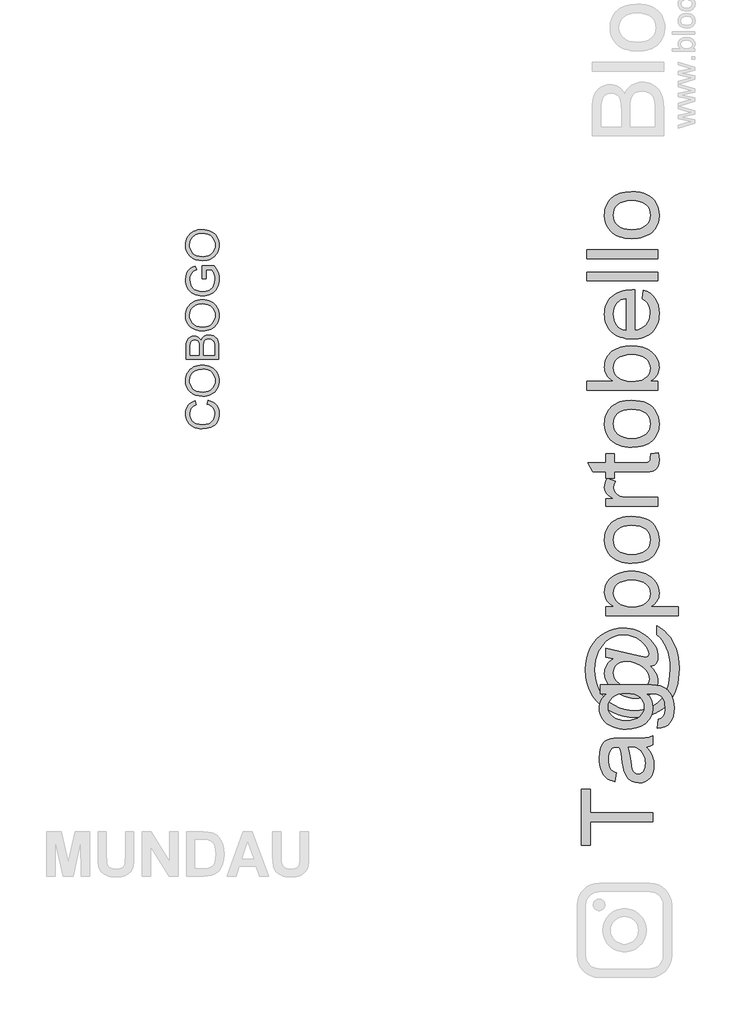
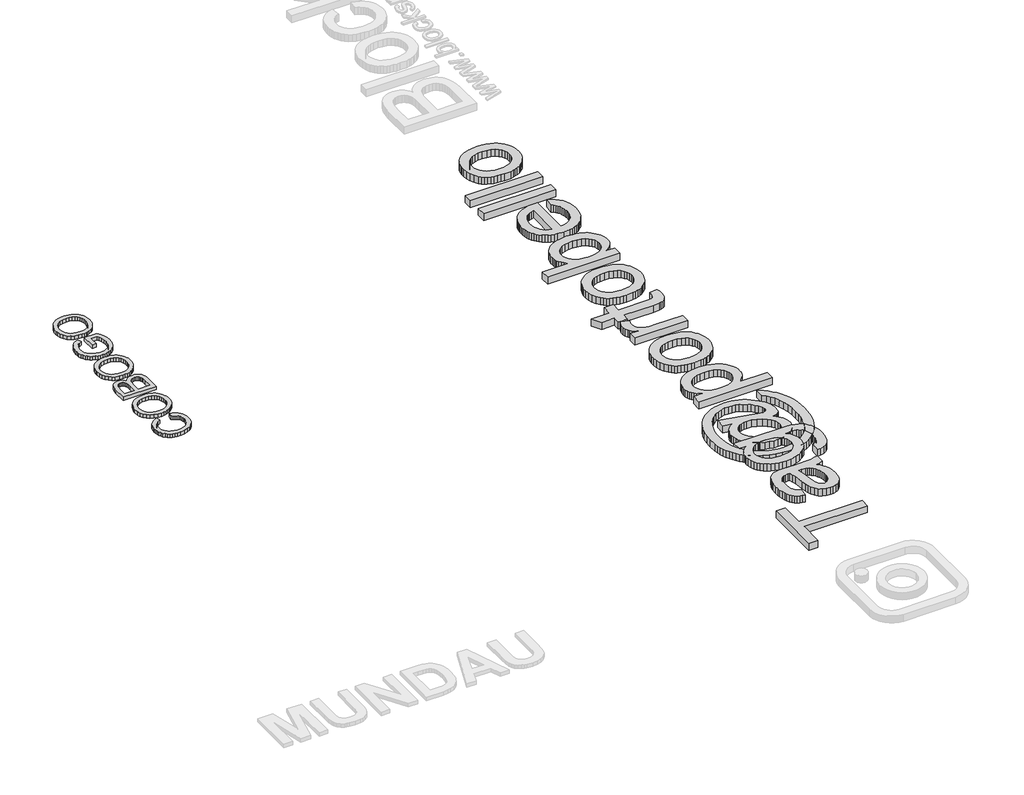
# One storey, part 3 of 4: 3 proxies.
"""IFC4 building model written with IfcOpenShell, lengths in millimetres."""

from ifc_helpers import new_model, si_unit, origin, origin_with_axes, place, context, project, spatial, polyline, outline, extrude, element, save

model = new_model("IFC4")

# Units and contexts
model_context = context("Model", 3, world=origin())
ifc_project = project(units=[si_unit("LENGTHUNIT", "METRE", prefix="MILLI")], contexts=[model_context])

# Site, building, storey
site = spatial("IfcSite", under=ifc_project)
building = spatial("IfcBuilding", under=site)
storey = spatial("IfcBuildingStorey", under=building, Name="PORTOBELLO - SHOWROOM", Elevation=0.0)

# Proxies
placement = place(None, origin())
element("IfcBuildingElementProxy", 1, Name="450mm Arial", ObjectType="450mm Arial", at=placement, inside=storey, context=model_context, shape_type="SweptSolid", body=[
    extrude(outline(polyline([(74081.6979895, 21402.8080917), (74096.1888613, 21459.0151096), (74131.1432867, 21447.893091), (74161.6859551, 21433.0797425), (74187.8168667, 21414.5750638), (74209.5360214, 21392.3790552), (74226.610138, 21366.9925847), (74238.8059357, 21338.9165207), (74246.1234143, 21308.1508629), (74248.5625738, 21274.6956116), (74246.7169088, 21240.4204459), (74241.1799137, 21209.5004109), (74231.9515887, 21181.9355069), (74219.0319336, 21157.7257336), (74202.6130623, 21136.5383226), (74182.8870886, 21118.0405052), (74159.8540125, 21102.2322814), (74133.5138341, 21089.1136513), (74075.4680125, 21071.4529013), (74013.3054659, 21065.5659846), (73979.404236, 21067.2298276), (73947.73976, 21072.2213566), (73918.3120379, 21080.5405716), (73891.1210696, 21092.1874726), (73866.6162644, 21106.9013336), (73845.2470314, 21124.4214288), (73827.0133705, 21144.7477582), (73811.9152818, 21167.8803218), (73800.076267, 21193.0335112), (73791.6198278, 21219.4217181), (73786.5459643, 21247.0449424), (73784.8546765, 21275.9031842), (73787.0434019, 21308.0513754), (73793.6095782, 21337.5305566), (73804.5532054, 21364.3407278), (73819.8742833, 21388.4818889), (73839.1680009, 21409.55609), (73862.0295467, 21427.165381), (73888.4589208, 21441.3097617), (73918.4561232, 21451.9892323), (73931.8492017, 21395.7822145), (73890.8603437, 21376.2963831), (73875.1927747, 21363.8775962), (73862.7431124, 21349.6748952), (73853.257492, 21333.6059455), (73846.4820489, 21315.5884127), (73841.0616944, 21273.7075976), (73842.564299, 21248.4926573), (73847.0721128, 21225.4321365), (73854.5851358, 21204.526035), (73865.103368, 21185.7743529), (73878.1533861, 21169.4138018), (73893.2617666, 21155.6810936), (73910.4285096, 21144.576228), (73929.6536151, 21136.0992053), (73970.7934197, 21125.3545532), (74013.1956865, 21121.7730025), (74065.1213105, 21126.0132292), (74110.0210571, 21138.7339092), (74129.407401, 21148.3944904), (74146.1796245, 21160.4153272), (74160.3377277, 21174.7964197), (74171.8817106, 21191.5377678), (74187.2370946, 21228.8490182), (74192.3555559, 21269.0968657), (74190.612809, 21293.5330588), (74185.3845684, 21316.0138076), (74176.6708339, 21336.539112), (74164.4716057, 21355.1089721), (74148.8417733, 21371.2842705), (74129.8362265, 21384.6258899), (74107.4549653, 21395.1338303), (74081.6979895, 21402.8080917)])), origin_with_axes(), (0.0, 0.0, 1.0), 50.0),
    extrude(outline(polyline([(74022.6367091, 21515.2221274), (73969.8946014, 21518.9683471), (73923.2040793, 21530.2070062), (73882.565143, 21548.9381047), (73847.9777923, 21575.1616426), (73820.3614291, 21607.3064031), (73800.6354555, 21643.8011697), (73788.7998712, 21684.6459424), (73784.8546765, 21729.840721), (73786.7072027, 21760.0917881), (73792.2647814, 21788.819667), (73801.5274125, 21816.0243576), (73814.4950961, 21841.70586), (73830.7767432, 21865.1437474), (73849.9812651, 21885.6175927), (73872.1086616, 21903.1273961), (73897.1589329, 21917.6731576), (73924.5625986, 21929.1039305), (73953.7501784, 21937.2687683), (73984.7216724, 21942.167671), (74017.4770805, 21943.8006386), (74050.6647447, 21942.0819059), (74082.0547724, 21936.9257079), (74111.6471635, 21928.3320446), (74139.441918, 21916.300916), (74164.7048868, 21901.1170621), (74186.7019204, 21883.0652233), (74205.4330188, 21862.1453994), (74220.8981822, 21838.3575904), (74233.0013535, 21812.6383514), (74241.6464759, 21785.9242371), (74246.8335493, 21758.2152476), (74248.5625738, 21729.511383), (74246.6517273, 21698.7320029), (74240.9191878, 21669.6267575), (74231.3649554, 21642.195647), (74217.9890299, 21616.4386713), (74201.3094327, 21593.0282288), (74181.8441849, 21572.6367179), (74159.5932866, 21555.2641387), (74134.5567378, 21540.9104911), (74107.7397054, 21529.671832), (74080.1473565, 21521.6442183), (74051.779691, 21516.8276502), (74022.6367091, 21515.2221274)]), holes=[polyline([(74023.1856057, 21571.4291453), (74060.4488276, 21574.2388101), (74093.5267125, 21582.6678044), (74122.4192604, 21596.7161282), (74147.1264713, 21616.3837816), (74166.9141958, 21640.2916617), (74181.0482848, 21667.0606656), (74189.5287381, 21696.6907934), (74192.3555559, 21729.182045), (74189.5012933, 21762.2290545), (74180.9385054, 21792.2091038), (74166.6671923, 21819.1221931), (74146.6873539, 21842.9683223), (74121.4586913, 21862.4918904), (74091.4409052, 21876.4372961), (74056.6339959, 21884.8045396), (74017.0379631, 21887.5936207), (73967.280481, 21882.8182198), (73924.2744278, 21868.492017), (73889.1038744, 21844.9855176), (73862.8528917, 21812.6692268), (73846.5094937, 21773.6838416), (73841.0616944, 21730.170059), (73843.6861065, 21698.8074761), (73851.559343, 21669.709092), (73864.6814037, 21642.8749066), (73883.0522888, 21618.3049199), (73907.557094, 21597.7967685), (73939.0809152, 21583.1480889), (73977.6237524, 21574.3588812), (74023.1856057, 21571.4291453)])]), origin_with_axes(), (0.0, 0.0, 1.0), 50.0),
    extrude(outline(polyline([(74241.5366966, 22021.0852881), (73791.8805537, 22021.0852881), (73791.8805537, 22192.6703836), (73795.1876561, 22239.8617738), (73805.1089632, 22276.7064621), (73821.8914786, 22304.9471952), (73845.7822056, 22326.32672), (73873.8857146, 22339.7884106), (73903.3065755, 22344.2756408), (73930.3809032, 22340.5019762), (73955.8359857, 22329.1809826), (73978.1074676, 22310.2303255), (73995.6309935, 22283.5676703), (74012.2625622, 22315.4173989), (74037.5666982, 22338.9513432), (74069.8692665, 22353.4833822), (74107.4961325, 22358.3273952), (74138.8518541, 22355.0202928), (74167.9296546, 22345.0989857), (74192.6574491, 22330.2924984), (74210.9631527, 22312.3298552), (74224.219007, 22290.3328216), (74233.7972537, 22263.4231629), (74239.6018358, 22230.7226445), (74241.5366966, 22191.3530316), (74241.5366966, 22021.0852881)]), holes=[polyline([(73974.5533618, 22077.292306), (73974.5533618, 22179.9359811), (73973.3457891, 22215.8338226), (73969.7230712, 22239.8754963), (73961.3935644, 22260.857071), (73948.9198878, 22275.9380067), (73932.4941553, 22285.0359689), (73912.3084807, 22288.0686229), (73892.7128699, 22285.2418051), (73875.6421839, 22276.7613517), (73862.3177175, 22263.0114904), (73853.9607658, 22244.3764489), (73849.5558702, 22215.7789329), (73848.0875716, 22172.1416486), (73848.0875716, 22077.292306), (73974.5533618, 22077.292306)]), polyline([(74185.3296787, 22077.292306), (74185.3296787, 22192.5606043), (74183.1340921, 22234.2767503), (74178.2626342, 22253.63908), (74170.8936966, 22269.5708055), (74160.3411583, 22282.5247666), (74145.9188986, 22292.9538032), (74128.271871, 22299.8287338), (74108.0450292, 22302.1203774), (74084.5522522, 22299.4307837), (74064.3528551, 22291.3620029), (74048.5583538, 22277.2690811), (74038.2802638, 22256.507065), (74032.6403507, 22227.0999265), (74030.7603796, 22187.0716377), (74030.7603796, 22077.292306), (74185.3296787, 22077.292306)])]), origin_with_axes(), (0.0, 0.0, 1.0), 50.0),
    extrude(outline(polyline([(74022.6367091, 22414.5344131), (73969.8946014, 22418.2806328), (73923.2040793, 22429.5192918), (73882.565143, 22448.2503903), (73847.9777923, 22474.4739282), (73820.3614291, 22506.6186888), (73800.6354555, 22543.1134554), (73788.7998712, 22583.958228), (73784.8546765, 22629.1530066), (73786.7072027, 22659.4040737), (73792.2647814, 22688.1319526), (73801.5274125, 22715.3366432), (73814.4950961, 22741.0181457), (73830.7767432, 22764.456033), (73849.9812651, 22784.9298784), (73872.1086616, 22802.4396818), (73897.1589329, 22816.9854432), (73924.5625986, 22828.4162162), (73953.7501784, 22836.581054), (73984.7216724, 22841.4799566), (74017.4770805, 22843.1129242), (74050.6647447, 22841.3941915), (74082.0547724, 22836.2379935), (74111.6471635, 22827.6443302), (74139.441918, 22815.6132016), (74164.7048868, 22800.4293478), (74186.7019204, 22782.3775089), (74205.4330188, 22761.457685), (74220.8981822, 22737.6698761), (74233.0013535, 22711.950637), (74241.6464759, 22685.2365227), (74246.8335493, 22657.5275333), (74248.5625738, 22628.8236686), (74246.6517273, 22598.0442885), (74240.9191878, 22568.9390432), (74231.3649554, 22541.5079326), (74217.9890299, 22515.7509569), (74201.3094327, 22492.3405144), (74181.8441849, 22471.9490036), (74159.5932866, 22454.5764243), (74134.5567378, 22440.2227767), (74107.7397054, 22428.9841176), (74080.1473565, 22420.956504), (74051.779691, 22416.1399358), (74022.6367091, 22414.5344131)]), holes=[polyline([(74023.1856057, 22470.7414309), (74060.4488276, 22473.5510957), (74093.5267125, 22481.98009), (74122.4192604, 22496.0284139), (74147.1264713, 22515.6960673), (74166.9141958, 22539.6039474), (74181.0482848, 22566.3729513), (74189.5287381, 22596.003079), (74192.3555559, 22628.4943306), (74189.5012933, 22661.5413401), (74180.9385054, 22691.5213895), (74166.6671923, 22718.4344788), (74146.6873539, 22742.280608), (74121.4586913, 22761.804176), (74091.4409052, 22775.7495817), (74056.6339959, 22784.1168252), (74017.0379631, 22786.9059063), (73967.280481, 22782.1305054), (73924.2744278, 22767.8043026), (73889.1038744, 22744.2978032), (73862.8528917, 22711.9815124), (73846.5094937, 22672.9961272), (73841.0616944, 22629.4823446), (73843.6861065, 22598.1197618), (73851.559343, 22569.0213777), (73864.6814037, 22542.1871923), (73883.0522888, 22517.6172056), (73907.557094, 22497.1090542), (73939.0809152, 22482.4603746), (73977.6237524, 22473.6711668), (74023.1856057, 22470.7414309)])]), origin_with_axes(), (0.0, 0.0, 1.0), 50.0),
    extrude(outline(polyline([(74065.8897658, 23131.1738907), (74009.6827479, 23131.1738907), (74009.6827479, 23313.8466987), (74177.7549048, 23313.8466987), (74208.6303419, 23269.4546814), (74230.7783221, 23223.6629777), (74244.1165109, 23176.5813668), (74248.5625738, 23128.3196281), (74246.7958127, 23096.0342127), (74241.4955293, 23065.2651244), (74232.6617237, 23036.0123631), (74220.2943959, 23008.2759288), (74204.5787984, 22982.9512092), (74185.700184, 22960.933592), (74163.6585525, 22942.2230771), (74138.4539041, 22926.8196646), (74110.8924306, 22914.788536), (74081.780324, 22906.1948727), (74051.1175844, 22901.0386747), (74018.9042118, 22899.319942), (73986.6874085, 22901.0318135), (73955.5752598, 22906.1674279), (73925.5677656, 22914.7267851), (73896.6649259, 22926.7098853), (73870.1360643, 22941.9040309), (73847.2505042, 22960.0965246), (73828.0082457, 22981.2873662), (73812.4092888, 23005.4765558), (73800.3541459, 23032.139211), (73791.7433296, 23060.7504494), (73786.5768398, 23091.3102708), (73784.8546765, 23123.8186755), (73788.8478997, 23170.1181086), (73800.8275693, 23211.7519202), (73819.929173, 23246.8126943), (73845.2881986, 23273.393015), (73878.1259412, 23293.0572378), (73919.6636959, 23307.3697181), (73934.264347, 23255.5538735), (73904.6376499, 23243.9858765), (73882.2838334, 23229.9203996), (73865.432706, 23211.3128029), (73852.3140759, 23186.1184462), (73843.8747897, 23156.0800766), (73841.0616944, 23122.9404408), (73844.0943484, 23084.1471694), (73853.1923105, 23050.9800888), (73867.2166202, 23023.5627007), (73885.0283167, 23002.0185069), (73905.7079983, 22985.482995), (73928.3362631, 22973.091653), (73970.7659748, 22959.9181332), (74016.5988458, 22955.5269599), (74070.3495511, 22960.8100902), (74093.6536449, 22967.4140032), (74114.5768994, 22976.6594813), (74133.0404108, 22988.4264534), (74148.9652751, 23002.5948484), (74162.3514923, 23019.1646663), (74173.1990626, 23038.135907), (74187.5664326, 23079.7285513), (74192.3555559, 23123.8186755), (74188.7465604, 23162.749171), (74177.9195738, 23200.7190973), (74163.0033071, 23233.6940641), (74147.1264713, 23257.6396808), (74065.8897658, 23257.6396808), (74065.8897658, 23131.1738907)])), origin_with_axes(), (0.0, 0.0, 1.0), 50.0),
    extrude(outline(polyline([(74022.6367091, 23384.105471), (73969.8946014, 23387.8516907), (73923.2040793, 23399.0903498), (73882.565143, 23417.8214483), (73847.9777923, 23444.0449861), (73820.3614291, 23476.1897467), (73800.6354555, 23512.6845133), (73788.7998712, 23553.5292859), (73784.8546765, 23598.7240646), (73786.7072027, 23628.9751317), (73792.2647814, 23657.7030106), (73801.5274125, 23684.9077012), (73814.4950961, 23710.5892036), (73830.7767432, 23734.0270909), (73849.9812651, 23754.5009363), (73872.1086616, 23772.0107397), (73897.1589329, 23786.5565012), (73924.5625986, 23797.9872741), (73953.7501784, 23806.1521119), (73984.7216724, 23811.0510146), (74017.4770805, 23812.6839821), (74050.6647447, 23810.9652495), (74082.0547724, 23805.8090515), (74111.6471635, 23797.2153882), (74139.441918, 23785.1842595), (74164.7048868, 23770.0004057), (74186.7019204, 23751.9485669), (74205.4330188, 23731.0287429), (74220.8981822, 23707.240934), (74233.0013535, 23681.5216949), (74241.6464759, 23654.8075807), (74246.8335493, 23627.0985912), (74248.5625738, 23598.3947266), (74246.6517273, 23567.6153464), (74240.9191878, 23538.5101011), (74231.3649554, 23511.0789906), (74217.9890299, 23485.3220149), (74201.3094327, 23461.9115724), (74181.8441849, 23441.5200615), (74159.5932866, 23424.1474823), (74134.5567378, 23409.7938346), (74107.7397054, 23398.5551756), (74080.1473565, 23390.5275619), (74051.779691, 23385.7109937), (74022.6367091, 23384.105471)]), holes=[polyline([(74023.1856057, 23440.3124889), (74060.4488276, 23443.1221536), (74093.5267125, 23451.551148), (74122.4192604, 23465.5994718), (74147.1264713, 23485.2671252), (74166.9141958, 23509.1750053), (74181.0482848, 23535.9440092), (74189.5287381, 23565.574137), (74192.3555559, 23598.0653886), (74189.5012933, 23631.112398), (74180.9385054, 23661.0924474), (74166.6671923, 23688.0055367), (74146.6873539, 23711.8516659), (74121.4586913, 23731.375234), (74091.4409052, 23745.3206397), (74056.6339959, 23753.6878831), (74017.0379631, 23756.4769643), (73967.280481, 23751.7015634), (73924.2744278, 23737.3753606), (73889.1038744, 23713.8688612), (73862.8528917, 23681.5525704), (73846.5094937, 23642.5671852), (73841.0616944, 23599.0534026), (73843.6861065, 23567.6908197), (73851.559343, 23538.5924356), (73864.6814037, 23511.7582502), (73883.0522888, 23487.1882635), (73907.557094, 23466.6801121), (73939.0809152, 23452.0314325), (73977.6237524, 23443.2422248), (74023.1856057, 23440.3124889)])]), origin_with_axes(), (0.0, 0.0, 1.0), 50.0),
])
element("IfcBuildingElementProxy", 2, Name="80mm OpenSans Bold", ObjectType="80mm OpenSans Bold", at=placement, inside=storey, context=model_context, shape_type="SweptSolid", body=[
    extrude(outline(polyline([(80188.305452, 17796.5326804), (80234.245515, 17750.6527091), (80270.1502731, 17699.5447647), (80283.6633819, 17672.6612648), (80293.3156025, 17645.7326962), (80299.1069348, 17618.7590588), (80301.0373789, 17591.7403527), (80298.8290109, 17562.2654006), (80292.203907, 17533.21109), (80281.1620672, 17504.577421), (80265.7034914, 17476.3643934), (80245.6629276, 17449.6761914), (80220.8751239, 17425.6169989), (80191.3400801, 17404.1868158), (80157.0577964, 17385.3856422), (80119.500518, 17370.084807), (80080.1404902, 17359.155639), (80038.9777131, 17352.5981382), (79996.0121866, 17350.4123046), (79942.0198431, 17353.7999711), (79887.967408, 17363.9629706), (79833.8548813, 17380.9013032), (79779.6822629, 17404.6149688), (79728.8597538, 17433.3688211), (79684.7975547, 17465.427714), (79647.4956658, 17500.7916473), (79616.954087, 17539.4606212), (79593.1878412, 17579.4891685), (79576.2119514, 17618.9318223), (79566.0264175, 17657.7885825), (79562.6312395, 17696.0594492), (79564.5616836, 17724.5879579), (79570.353016, 17752.4855043), (79580.0052365, 17779.7520884), (79593.5183453, 17806.3877103), (79610.9824798, 17831.7914534), (79632.4877774, 17855.3624013), (79658.0342381, 17877.1005541), (79687.6218621, 17897.0059116), (79578.0147008, 17919.6003703), (79578.0147008, 18042.6680602), (80029.4231414, 17940.7526295), (80133.5018714, 17919.6003703), (80150.4777612, 17923.05564), (80164.8697103, 17933.4214488), (80174.6946943, 17948.6546809), (80177.969689, 17966.7122204), (80175.5359774, 17986.0166615), (80168.2348425, 18008.1153641), (80139.0303028, 18060.6955539), (80111.4857948, 18097.1486483), (80079.5696196, 18129.5906254), (80043.2817772, 18158.0214851), (80002.6222676, 18182.4412276), (79959.4389089, 18202.0536384), (79915.5795191, 18216.0625032), (79871.0440984, 18224.4678221), (79825.8326466, 18227.2695951), (79773.5829609, 18223.6640964), (79723.0759329, 18212.8476002), (79674.3115626, 18194.8201065), (79627.28985, 18169.5816154), (79583.4454832, 18137.1847071), (79544.2131502, 18097.6819617), (79509.592851, 18051.0733791), (79479.5845855, 17997.3589596), (79455.345118, 17938.5968418), (79438.0312127, 17876.8451646), (79427.6428695, 17812.1039281), (79424.1800884, 17744.3731322), (79428.57429, 17667.110299), (79441.7568947, 17593.2426439), (79463.7279026, 17522.7701666), (79494.4873136, 17455.6928674), (79533.4492342, 17393.9937704), (79580.0277709, 17339.6559), (79634.2229236, 17292.6792562), (79696.0346924, 17253.0638389), (79762.8265564, 17221.6208854), (79831.9619945, 17199.1616329), (79903.4410067, 17185.6860815), (79977.2635932, 17181.194231), (80053.2419674, 17185.6410127), (80123.736979, 17198.981358), (80188.7486279, 17221.2152668), (80248.2769142, 17252.3427392), (80301.3528601, 17291.8905533), (80347.0074877, 17339.3854876), (80385.2407971, 17394.827542), (80416.0527883, 17458.2167165), (80439.7664539, 17527.3897119), (80456.7047865, 17600.1832289), (80466.867786, 17676.5972676), (80470.2554525, 17756.6318279), (80466.8903204, 17840.6850169), (80456.7949239, 17917.617346), (80439.9692632, 17987.4288151), (80416.4133382, 18050.1194243), (80388.0500815, 18105.5389443), (80356.8024259, 18153.5371461), (80322.6703713, 18194.1140297), (80285.6539177, 18227.2695951), (80285.6539177, 18350.337285), (80321.7539737, 18330.3493014), (80358.1845337, 18304.2770387), (80394.9455979, 18272.120497), (80432.037166, 18233.8796761), (80467.3485192, 18190.6362257), (80498.7689383, 18143.4717955), (80526.2984234, 18092.3863854), (80549.9369744, 18037.3799954), (80568.9184229, 17977.4986707), (80582.4766004, 17911.7884564), (80590.6115069, 17840.2493525), (80593.3231424, 17762.881359), (80590.9269881, 17690.4033231), (80583.738525, 17620.7946633), (80571.7577532, 17554.0553796), (80554.9846726, 17490.1854719), (80533.4117719, 17430.0562692), (80507.0315395, 17374.5391002), (80475.8439755, 17323.6339651), (80439.8490799, 17277.3408637), (80399.9857846, 17236.0729262), (80357.1930216, 17200.2432826), (80311.4707909, 17169.8519329), (80262.8190924, 17144.8988771), (80198.1003902, 17120.3965087), (80130.857839, 17102.8948169), (80061.0914386, 17092.3938019), (79988.8011891, 17088.8934635), (79907.8126739, 17093.0698329), (79828.7771373, 17105.598941), (79751.6945791, 17126.4807878), (79676.5649993, 17155.7153733), (79590.9118702, 17200.6188553), (79552.0795222, 17226.2817437), (79515.9099852, 17254.0853969), (79482.4032593, 17284.029815), (79451.5593444, 17316.1149979), (79423.3782405, 17350.3409457), (79397.8599477, 17386.7076584), (79375.1847408, 17425.1400214), (79355.5328949, 17465.5629202), (79338.9044099, 17507.9763547), (79325.2992858, 17552.3803249), (79314.7175226, 17598.774831), (79307.1591203, 17647.1598727), (79301.1123985, 17749.9015636), (79305.3488595, 17830.4844601), (79318.0582425, 17906.8609415), (79339.2405475, 17979.0310077), (79368.8957746, 18046.9946587), (79406.9488091, 18109.3848096), (79453.3245364, 18164.8343754), (79508.0229567, 18213.3433562), (79571.0440699, 18254.911752), (79630.008997, 18283.1998941), (79691.527819, 18303.4057099), (79755.600536, 18315.5291993), (79822.2271479, 18319.5703625), (79869.9286472, 18317.4746664), (79916.285596, 18311.187578), (79961.2979941, 18300.7090973), (80004.9658417, 18286.0392243), (80047.2891388, 18267.1779591), (80088.2678853, 18244.1253016), (80127.9020812, 18216.8812519), (80166.1917265, 18185.4458098), (80197.7961763, 18155.1145518), (80225.1866994, 18124.0922398), (80248.3632959, 18092.3788739), (80267.3259658, 18059.9744541), (80282.074709, 18026.8789804), (80292.6095256, 17993.0924527), (80298.9304156, 17958.6148711), (80301.0373789, 17923.4462356), (80297.4919718, 17882.4036418), (80286.8557506, 17850.1344282), (80269.66954, 17825.9174951), (80246.4741648, 17809.0317427), (80223.398973, 17801.5803787), (80188.305452, 17796.5326804)]), holes=[polyline([(79997.9351192, 17473.4799945), (80038.2265675, 17476.176607), (80073.7707758, 17484.2664448), (80104.5677441, 17497.7495078), (80130.6174724, 17516.6257959), (80151.3340672, 17538.9873995), (80166.1316349, 17562.9264087), (80175.0101755, 17588.4428237), (80177.969689, 17615.5366443), (80172.7417159, 17653.7849767), (80157.0577964, 17694.0163333), (80131.0982056, 17734.3077816), (80095.0432183, 17772.7363888), (80048.4121014, 17806.8383976), (79990.7241218, 17834.1500505), (79927.3875275, 17852.0874067), (79863.8105666, 17858.0665254), (79823.8721567, 17855.2647524), (79788.6659639, 17846.8594335), (79758.1919882, 17832.8505687), (79732.4502296, 17813.2381579), (79711.9965358, 17789.5996068), (79697.3867545, 17763.5123213), (79688.6208857, 17734.9763011), (79685.6989294, 17703.9915464), (79690.7766735, 17662.708586), (79706.0099056, 17623.9494747), (79732.4502296, 17587.0231586), (79771.1492493, 17551.2385837), (79820.8149942, 17519.5101949), (79880.1554941, 17494.752437), (79941.6893391, 17478.7981051), (79997.9351192, 17473.4799945)])]), origin_with_axes(), (0.0, 0.0, 1.0), 100.0),
    extrude(outline(polyline([(80577.9396812, 18488.7884361), (79578.0147008, 18488.7884361), (79578.0147008, 18611.856126), (79698.6787248, 18611.856126), (79666.7925955, 18631.3258191), (79639.15795, 18651.9973452), (79615.7747885, 18673.8707041), (79596.6431109, 18696.945896), (79581.7629172, 18721.8839288), (79571.1342074, 18749.3458108), (79564.7569815, 18779.3315419), (79562.6312395, 18811.8411221), (79565.605776, 18854.7615799), (79574.5293853, 18895.068051), (79589.4020676, 18932.7605357), (79610.2238227, 18967.8390337), (79636.453826, 18999.5373767), (79667.5512525, 19027.0893961), (79703.5161023, 19050.495092), (79744.3483754, 19069.7544644), (79788.650941, 19084.7923987), (79835.0266684, 19095.5337803), (79883.4755575, 19101.9786093), (79933.9976085, 19104.1268856), (79988.0124863, 19101.7006854), (80039.2481255, 19094.4220849), (80087.7045261, 19082.2910839), (80133.3816881, 19065.3076826), (80175.08529, 19043.7047361), (80211.6210105, 19017.7150994), (80242.9888494, 18987.3387726), (80269.1888068, 18952.5757558), (80289.8528214, 18915.1311492), (80304.6128318, 18876.7100534), (80313.4688381, 18837.3124683), (80316.4208401, 18796.938394), (80314.4453273, 18767.8915949), (80308.5187888, 18740.3621098), (80298.6412245, 18714.3499388), (80284.8126346, 18689.8550818), (80249.0280598, 18646.6191429), (80204.8907462, 18611.856126), (80577.9396812, 18611.856126), (80577.9396812, 18488.7884361)]), holes=[polyline([(79945.2948378, 18611.856126), (80004.6052919, 18615.1837009), (80055.6230989, 18625.1664255), (80098.3482588, 18641.8042998), (80132.7807716, 18665.0973239), (80159.2811873, 18693.1375879), (80178.2100556, 18724.0171823), (80189.5673766, 18757.7361068), (80193.3531503, 18794.2943616), (80189.4321704, 18831.3784183), (80177.6692308, 18865.7132822), (80158.0643315, 18897.2989534), (80130.6174724, 18926.1354318), (80094.9380579, 18950.1645785), (80050.6354923, 18967.3282547), (79997.7097756, 18977.6264605), (79936.1609077, 18981.0591957), (79877.3612326, 18977.7090865), (79826.4335631, 18967.6587588), (79783.3778991, 18950.9082126), (79748.1942407, 18927.457448), (79720.852542, 18899.3495808), (79701.3227572, 18868.627727), (79689.6048864, 18835.2918867), (79685.6989294, 18799.3420598), (79689.8527644, 18763.5049048), (79702.3142694, 18729.7859802), (79723.0834444, 18698.1852862), (79752.1602893, 18668.7028226), (79789.1542085, 18643.8323928), (79833.6746064, 18626.0678002), (79885.7214828, 18615.4090445), (79945.2948378, 18611.856126)])]), origin_with_axes(), (0.0, 0.0, 1.0), 100.0),
    extrude(outline(polyline([(79939.5260398, 19211.8111143), (79891.0884179, 19213.4749017), (79845.8882333, 19218.466264), (79803.9254861, 19226.7852012), (79765.2001764, 19238.4317132), (79729.712304, 19253.4058001), (79697.461869, 19271.7074619), (79668.4488715, 19293.3366985), (79642.6733113, 19318.29351), (79607.6549049, 19365.1950393), (79582.6417575, 19416.9639918), (79567.633869, 19473.6003677), (79562.6312395, 19535.1041668), (79564.1541872, 19569.8653059), (79568.7230301, 19603.0002147), (79576.3377683, 19634.5088935), (79586.9984018, 19664.391342), (79600.7049305, 19692.6475604), (79617.4573546, 19719.2775487), (79637.2556739, 19744.2813068), (79660.0998885, 19767.6588347), (79685.6294485, 19788.8129718), (79713.483804, 19807.1465573), (79743.6629551, 19822.6595911), (79776.1669017, 19835.3520733), (79810.9956438, 19845.224004), (79848.1491815, 19852.275383), (79929.4306434, 19857.9164862), (79995.3061097, 19855.4226829), (80053.7602579, 19847.9412731), (80104.7930878, 19835.4722566), (80148.4045995, 19818.0156336), (80186.0745497, 19795.7892363), (80219.2826953, 19769.0108968), (80248.0290362, 19737.6806151), (80272.3135724, 19701.7983913), (80291.610502, 19662.7613561), (80305.3940232, 19621.9666403), (80313.6641359, 19579.4142439), (80316.4208401, 19535.1041668), (80310.351584, 19466.2166068), (80302.7650137, 19434.3699125), (80292.1438154, 19404.2546088), (80278.487989, 19375.8706957), (80261.7975344, 19349.2181731), (80242.0724518, 19324.297041), (80219.3127411, 19301.1072994), (80193.6986772, 19280.178506), (80165.4105351, 19262.0402184), (80134.4483148, 19246.6924366), (80100.8120162, 19234.1351605), (80064.5016395, 19224.3683903), (80025.5171845, 19217.3921258), (79939.5260398, 19211.8111143)]), holes=[polyline([(79939.2856733, 19334.8788042), (79998.9792116, 19338.4392341), (80050.6655381, 19349.1205241), (80094.3446529, 19366.9226741), (80130.0165559, 19391.845684), (80157.726316, 19422.1619192), (80177.5190017, 19456.1437447), (80189.3946131, 19493.7911606), (80193.3531503, 19535.1041668), (80189.3720787, 19576.2068523), (80177.4288642, 19613.7040391), (80157.5235066, 19647.5957271), (80129.6560061, 19677.8819164), (80093.6310646, 19702.8049264), (80049.2533844, 19720.6070763), (79996.5229656, 19731.2883663), (79935.4398079, 19734.8487963), (79877.6391565, 19731.265832), (79827.3048919, 19720.5169389), (79784.4370144, 19702.6021171), (79749.0355237, 19677.5213666), (79721.3257637, 19647.1225054), (79701.533078, 19613.2533517), (79689.6574666, 19575.9139055), (79685.6989294, 19535.1041668), (79689.6424437, 19493.7911606), (79701.4729864, 19456.1437447), (79721.1905575, 19422.1619192), (79748.7951572, 19391.845684), (79784.3618998, 19366.9226741), (79827.9659, 19349.1205241), (79879.6071579, 19338.4392341), (79939.2856733, 19334.8788042)])]), origin_with_axes(), (0.0, 0.0, 1.0), 100.0),
    extrude(outline(polyline([(80198.4008485, 20719.3903155), (80304.6428776, 20734.7737767), (80313.4763495, 20686.0394523), (80316.4208401, 20642.7133759), (80311.3130503, 20583.6432884), (80304.928313, 20559.7418364), (80295.9896807, 20539.5961123), (80272.373664, 20508.4686399), (80242.3879329, 20488.1576638), (80221.2206508, 20481.6377202), (80190.8893928, 20476.9806177), (80102.7349489, 20473.2549357), (79701.0823907, 20473.2549357), (79701.0823907, 20380.9541683), (79600.6091595, 20380.9541683), (79578.0147008, 20380.9541683), (79578.0147008, 20473.2549357), (79402.3067294, 20473.2549357), (79329.9563883, 20596.3226256), (79578.0147008, 20596.3226256), (79578.0147008, 20719.3903155), (79701.0823907, 20719.3903155), (79701.0823907, 20596.3226256), (80099.1294502, 20596.3226256), (80139.6312192, 20597.9451), (80162.5862278, 20602.8125233), (80175.2956108, 20611.3154911), (80185.0605032, 20623.8445992), (80191.2799885, 20641.6016805), (80193.3531503, 20665.7885677), (80198.4008485, 20719.3903155)])), origin_with_axes(), (0.0, 0.0, 1.0), 100.0),
    extrude(outline(polyline([(80301.0373789, 19996.3676374), (79578.0147008, 19996.3676374), (79578.0147008, 20104.051866), (79684.9778297, 20104.051866), (79622.9632516, 20143.8325353), (79601.5105341, 20162.5510829), (79586.4275311, 20180.488439), (79568.5803124, 20217.2645261), (79562.6312395, 20257.4057452), (79565.0048595, 20287.9323011), (79572.1257195, 20318.6992236), (79583.9938195, 20349.7065126), (79600.6091595, 20380.9541683), (79710.9374205, 20339.8514828), (79692.0085522, 20296.5854981), (79685.6989294, 20253.3195133), (79691.7681856, 20216.5734721), (79709.9759542, 20183.7333879), (79723.2862537, 20169.3789961), (79738.9401273, 20157.2029264), (79777.2785971, 20139.3857535), (79846.0234395, 20124.4229338), (79921.017813, 20119.4353272), (80301.0373789, 20119.4353272), (80301.0373789, 19996.3676374)])), origin_with_axes(), (0.0, 0.0, 1.0), 100.0),
    extrude(outline(polyline([(79939.5260398, 20811.6910829), (79891.0884179, 20813.3548704), (79845.8882333, 20818.3462327), (79803.9254861, 20826.6651698), (79765.2001764, 20838.3116819), (79729.712304, 20853.2857688), (79697.461869, 20871.5874305), (79668.4488715, 20893.2166672), (79642.6733113, 20918.1734787), (79607.6549049, 20965.0750079), (79582.6417575, 21016.8439605), (79567.633869, 21073.4803364), (79562.6312395, 21134.9841355), (79564.1541872, 21169.7452745), (79568.7230301, 21202.8801834), (79576.3377683, 21234.3888621), (79586.9984018, 21264.2713107), (79600.7049305, 21292.5275291), (79617.4573546, 21319.1575174), (79637.2556739, 21344.1612755), (79660.0998885, 21367.5388034), (79685.6294485, 21388.6929405), (79713.483804, 21407.0265259), (79743.6629551, 21422.5395598), (79776.1669017, 21435.232042), (79810.9956438, 21445.1039726), (79848.1491815, 21452.1553517), (79929.4306434, 21457.7964549), (79995.3061097, 21455.3026516), (80053.7602579, 21447.8212417), (80104.7930878, 21435.3522253), (80148.4045995, 21417.8956023), (80186.0745497, 21395.6692049), (80219.2826953, 21368.8908654), (80248.0290362, 21337.5605838), (80272.3135724, 21301.67836), (80291.610502, 21262.6413248), (80305.3940232, 21221.846609), (80313.6641359, 21179.2942125), (80316.4208401, 21134.9841355), (80310.351584, 21066.0965754), (80302.7650137, 21034.2498812), (80292.1438154, 21004.1345775), (80278.487989, 20975.7506643), (80261.7975344, 20949.0981417), (80242.0724518, 20924.1770096), (80219.3127411, 20900.9872681), (80193.6986772, 20880.0584747), (80165.4105351, 20861.9201871), (80134.4483148, 20846.5724052), (80100.8120162, 20834.0151292), (80064.5016395, 20824.248359), (80025.5171845, 20817.2720945), (79939.5260398, 20811.6910829)]), holes=[polyline([(79939.2856733, 20934.7587728), (79998.9792116, 20938.3192028), (80050.6655381, 20949.0004928), (80094.3446529, 20966.8026428), (80130.0165559, 20991.7256527), (80157.726316, 21022.0418878), (80177.5190017, 21056.0237133), (80189.3946131, 21093.6711292), (80193.3531503, 21134.9841355), (80189.3720787, 21176.086821), (80177.4288642, 21213.5840077), (80157.5235066, 21247.4756958), (80129.6560061, 21277.7618851), (80093.6310646, 21302.684895), (80049.2533844, 21320.487045), (79996.5229656, 21331.168335), (79935.4398079, 21334.728765), (79877.6391565, 21331.1458006), (79827.3048919, 21320.3969075), (79784.4370144, 21302.4820857), (79749.0355237, 21277.4013352), (79721.3257637, 21247.0024741), (79701.533078, 21213.1333204), (79689.6574666, 21175.7938742), (79685.6989294, 21134.9841355), (79689.6424437, 21093.6711292), (79701.4729864, 21056.0237133), (79721.1905575, 21022.0418878), (79748.7951572, 20991.7256527), (79784.3618998, 20966.8026428), (79827.9659, 20949.0004928), (79879.6071579, 20938.3192028), (79939.2856733, 20934.7587728)])]), origin_with_axes(), (0.0, 0.0, 1.0), 100.0),
    extrude(outline(polyline([(80301.0373789, 21719.3152959), (80301.0373789, 21596.247606), (79316.4958597, 21596.247606), (79316.4958597, 21719.3152959), (79681.6126975, 21719.3152959), (79653.7264183, 21738.8976609), (79629.5583097, 21759.7870191), (79609.1083716, 21781.9833707), (79592.376604, 21805.4867155), (79579.3630071, 21830.2970536), (79570.0675807, 21856.414385), (79564.4903248, 21883.8387097), (79562.6312395, 21912.5700277), (79564.3062941, 21944.7040351), (79569.331458, 21975.9667137), (79577.7067311, 22006.3580633), (79589.4321134, 22035.8780842), (79604.1921238, 22063.6704702), (79621.6712812, 22088.8789155), (79641.8695855, 22111.50342), (79664.7870368, 22131.5439837), (79718.3587387, 22164.9849844), (79781.9657454, 22190.313613), (79852.9640246, 22206.2679449), (79928.7095437, 22211.5860555), (80016.112842, 22206.0801585), (80055.8709769, 22199.1977872), (80093.0001023, 22189.5624674), (80127.5002183, 22177.1741992), (80159.3713247, 22162.0329824), (80188.6134217, 22144.1388171), (80215.2265092, 22123.4917033), (80259.499029, 22077.2286477), (80276.8918046, 22052.4352104), (80291.1222574, 22026.5338333), (80302.1903874, 21999.5245165), (80310.0961945, 21971.4072601), (80314.8396787, 21942.1820639), (80316.4208401, 21911.848928), (80314.3814799, 21882.0246932), (80308.2633993, 21853.8454672), (80298.0665982, 21827.31125), (80283.7910767, 21802.4220416), (80265.4368347, 21779.177842), (80243.0038723, 21757.5786512), (80216.4921895, 21737.6244691), (80185.9017862, 21719.3152959), (80301.0373789, 21719.3152959)]), holes=[polyline([(79934.4783416, 21719.3152959), (79989.9429304, 21721.4185035), (80037.1148721, 21727.7281263), (80075.9941667, 21738.2441642), (80106.5808142, 21752.9666174), (80144.5437112, 21782.7870964), (80171.6600662, 21817.4449529), (80187.9298792, 21856.9401869), (80193.3531503, 21901.2727984), (80189.3570558, 21938.0789312), (80177.3687726, 21972.3011233), (80157.3883004, 22003.9393746), (80129.4156395, 22032.9936852), (80093.5259042, 22057.2857329), (80049.7942093, 22074.6371955), (79998.2205545, 22085.0480731), (79938.8049401, 22088.5183656), (79878.2626073, 22085.1907907), (79826.1931965, 22075.2080661), (79782.5967077, 22058.5701918), (79747.473141, 22035.2771677), (79720.4469234, 22007.2669495), (79701.1424823, 21976.4774926), (79689.5598176, 21942.9087972), (79685.6989294, 21906.5608632), (79689.6950238, 21869.7547303), (79701.6833071, 21835.5325382), (79721.6637792, 21803.8942869), (79749.6364402, 21774.8399763), (79785.1656256, 21750.5479286), (79827.8156709, 21733.196466), (79877.5865763, 21722.7855884), (79934.4783416, 21719.3152959)])]), origin_with_axes(), (0.0, 0.0, 1.0), 100.0),
    extrude(outline(polyline([(80085.6689216, 22856.249228), (80101.0523828, 22976.913252), (80149.3810887, 22958.4125367), (80191.9710424, 22933.4369466), (80228.822244, 22901.9864816), (80259.9346934, 22864.0611419), (80284.6473826, 22820.051523), (80302.2993035, 22770.3482208), (80312.890456, 22714.9512351), (80316.4208401, 22653.8605661), (80314.8978925, 22614.6395002), (80310.3290496, 22577.4991076), (80302.7143114, 22542.4393882), (80292.0536779, 22509.460342), (80278.3471492, 22478.5619691), (80261.5947251, 22449.7442694), (80241.7964058, 22423.0072429), (80218.9521912, 22398.3508896), (80193.3587838, 22376.210874), (80165.3128862, 22357.0228604), (80134.8144983, 22340.786849), (80101.86362, 22327.5028396), (80066.4602515, 22317.1708323), (80028.6043928, 22309.7908271), (79945.5352044, 22303.8868229), (79859.6492201, 22309.8509187), (79820.5258032, 22317.3060385), (79783.9487697, 22327.7432062), (79749.9181198, 22341.1624217), (79718.4338533, 22357.5636852), (79689.4959703, 22376.9469966), (79663.1044707, 22399.3123559), (79639.5560572, 22424.0550909), (79619.1474321, 22450.5705295), (79601.8785955, 22478.8586716), (79587.7495473, 22508.9195172), (79576.7602877, 22540.7530664), (79568.9108165, 22574.3593191), (79564.2011338, 22609.7382754), (79562.6312395, 22646.8899352), (79564.197378, 22682.826617), (79568.8957936, 22717.0844885), (79576.7264861, 22749.6635497), (79587.6894557, 22780.5638005), (79601.7847023, 22809.785241), (79619.0122259, 22837.3278711), (79639.3720265, 22863.1916909), (79662.8641042, 22887.3767003), (79689.195512, 22909.2632043), (79718.0733034, 22928.2315078), (79749.4974783, 22944.2816107), (79783.4680366, 22957.4135131), (79819.9849784, 22967.627215), (79859.0483037, 22974.9227163), (79944.8141046, 22980.7591174), (79977.9846929, 22980.0380176), (79977.9846929, 22426.9545128), (80027.0945902, 22434.0828843), (80070.1051854, 22448.2570011), (80107.0164786, 22469.4768634), (80137.8284698, 22497.7424712), (80162.1205175, 22531.4914415), (80179.4719802, 22569.1613918), (80189.8828577, 22610.7523219), (80193.3531503, 22656.2642319), (80191.7456987, 22690.306149), (80186.9233442, 22721.7641254), (80178.8860866, 22750.6381611), (80167.633926, 22776.928256), (80152.8664041, 22800.6344101), (80134.2830628, 22821.7566235), (80111.8839019, 22840.2948961), (80085.6689216, 22856.249228)]), holes=[polyline([(79854.917003, 22426.9545128), (79854.917003, 22857.6914275), (79820.0938945, 22851.3667818), (79789.8978427, 22841.0460417), (79764.3288475, 22826.7292071), (79743.3869091, 22808.4162782), (79718.148418, 22774.8550942), (79700.1209243, 22736.6668535), (79689.3044282, 22693.8515561), (79685.6989294, 22646.409202), (79688.575817, 22603.1357058), (79697.2064795, 22563.4526855), (79711.5909172, 22527.3601409), (79731.7291298, 22494.8580722), (79756.6896971, 22467.5839766), (79785.5411984, 22447.1753515), (79818.2836337, 22433.6321969), (79854.917003, 22426.9545128)])]), origin_with_axes(), (0.0, 0.0, 1.0), 100.0),
    extrude(outline(polyline([(80301.0373789, 23103.8268073), (79316.4958597, 23103.8268073), (79316.4958597, 23226.8944971), (80301.0373789, 23226.8944971), (80301.0373789, 23103.8268073)])), origin_with_axes(), (0.0, 0.0, 1.0), 100.0),
    extrude(outline(polyline([(80301.0373789, 23411.496032), (79316.4958597, 23411.496032), (79316.4958597, 23534.5637219), (80301.0373789, 23534.5637219), (80301.0373789, 23411.496032)])), origin_with_axes(), (0.0, 0.0, 1.0), 100.0),
    extrude(outline(polyline([(79939.5260398, 23688.3983343), (79891.0884179, 23690.0621217), (79845.8882333, 23695.053484), (79803.9254861, 23703.3724212), (79765.2001764, 23715.0189332), (79729.712304, 23729.9930201), (79697.461869, 23748.2946819), (79668.4488715, 23769.9239185), (79642.6733113, 23794.88073), (79607.6549049, 23841.7822593), (79582.6417575, 23893.5512119), (79567.633869, 23950.1875877), (79562.6312395, 24011.6913868), (79564.1541872, 24046.4525259), (79568.7230301, 24079.5874347), (79576.3377683, 24111.0961135), (79586.9984018, 24140.978562), (79600.7049305, 24169.2347804), (79617.4573546, 24195.8647687), (79637.2556739, 24220.8685268), (79660.0998885, 24244.2460547), (79685.6294485, 24265.4001918), (79713.483804, 24283.7337773), (79743.6629551, 24299.2468111), (79776.1669017, 24311.9392934), (79810.9956438, 24321.811224), (79848.1491815, 24328.862603), (79929.4306434, 24334.5037062), (79995.3061097, 24332.0099029), (80053.7602579, 24324.5284931), (80104.7930878, 24312.0594766), (80148.4045995, 24294.6028536), (80186.0745497, 24272.3764563), (80219.2826953, 24245.5981168), (80248.0290362, 24214.2678351), (80272.3135724, 24178.3856113), (80291.610502, 24139.3485761), (80305.3940232, 24098.5538603), (80313.6641359, 24056.0014639), (80316.4208401, 24011.6913868), (80310.351584, 23942.8038268), (80302.7650137, 23910.9571325), (80292.1438154, 23880.8418288), (80278.487989, 23852.4579157), (80261.7975344, 23825.8053931), (80242.0724518, 23800.884261), (80219.3127411, 23777.6945194), (80193.6986772, 23756.765726), (80165.4105351, 23738.6274384), (80134.4483148, 23723.2796566), (80100.8120162, 23710.7223806), (80064.5016395, 23700.9556103), (80025.5171845, 23693.9793458), (79939.5260398, 23688.3983343)]), holes=[polyline([(79939.2856733, 23811.4660242), (79998.9792116, 23815.0264542), (80050.6655381, 23825.7077441), (80094.3446529, 23843.5098941), (80130.0165559, 23868.4329041), (80157.726316, 23898.7491392), (80177.5190017, 23932.7309647), (80189.3946131, 23970.3783806), (80193.3531503, 24011.6913868), (80189.3720787, 24052.7940723), (80177.4288642, 24090.2912591), (80157.5235066, 24124.1829471), (80129.6560061, 24154.4691364), (80093.6310646, 24179.3921464), (80049.2533844, 24197.1942964), (79996.5229656, 24207.8755863), (79935.4398079, 24211.4360163), (79877.6391565, 24207.853052), (79827.3048919, 24197.1041589), (79784.4370144, 24179.1893371), (79749.0355237, 24154.1085866), (79721.3257637, 24123.7097254), (79701.533078, 24089.8405717), (79689.6574666, 24052.5011255), (79685.6989294, 24011.6913868), (79689.6424437, 23970.3783806), (79701.4729864, 23932.7309647), (79721.1905575, 23898.7491392), (79748.7951572, 23868.4329041), (79784.3618998, 23843.5098941), (79827.9659, 23825.7077441), (79879.6071579, 23815.0264542), (79939.2856733, 23811.4660242)])]), origin_with_axes(), (0.0, 0.0, 1.0), 100.0),
])
element("IfcBuildingElementProxy", 3, Name="80mm OpenSans Light", ObjectType="80mm OpenSans Light", at=placement, inside=storey, context=model_context, shape_type="SweptSolid", body=[
    extrude(outline(polyline([(80230.4680998, 15648.1202135), (79368.9942706, 15648.1202135), (79368.9942706, 15325.0675275), (79245.9265807, 15325.0675275), (79245.9265807, 16094.2405893), (79368.9942706, 16094.2405893), (79368.9942706, 15771.1879034), (80230.4680998, 15771.1879034), (80230.4680998, 15648.1202135)])), origin_with_axes(), (0.0, 0.0, 1.0), 100.0),
    extrude(outline(polyline([(80138.1673324, 16678.8121163), (80165.5540998, 16649.630111), (80188.584223, 16620.0124413), (80207.2577018, 16589.9591071), (80221.5745363, 16559.4701085), (80232.1957347, 16528.1999185), (80239.7823049, 16495.8030101), (80245.8515611, 16427.6290383), (80242.2009936, 16372.8329691), (80231.2492912, 16324.7821871), (80212.9964539, 16283.4766923), (80187.4424817, 16248.9164847), (80156.209849, 16221.6273662), (80120.9210302, 16202.1351388), (80081.5760253, 16190.4398023), (80038.1748344, 16186.5413568), (79987.1570274, 16192.430338), (79940.8263687, 16210.0972818), (79901.1658827, 16237.348843), (79870.1585937, 16271.9916766), (79846.722852, 16312.7037664), (79829.7770079, 16358.1630962), (79820.3426196, 16402.4506389), (79811.2687811, 16464.6454919), (79791.799088, 16590.4773975), (79780.8023169, 16639.0614929), (79768.9642627, 16678.0910166), (79741.5624724, 16678.8121163), (79711.7269704, 16676.6938858), (79686.6387085, 16670.3391943), (79666.2976865, 16659.7480418), (79650.7039045, 16644.9204283), (79635.1401683, 16619.2913415), (79624.0232139, 16588.0737317), (79617.3530412, 16551.2675989), (79615.1296504, 16508.872943), (79616.6094071, 16469.4528236), (79621.0486774, 16435.5611355), (79628.4474613, 16407.1978789), (79638.8057587, 16384.3630536), (79652.9348068, 16365.5994373), (79671.6458429, 16349.4498076), (79694.938867, 16335.9141645), (79722.813879, 16324.9925079), (79707.4304178, 16201.924818), (79671.976347, 16211.2916032), (79640.1277749, 16223.287398), (79611.8847015, 16237.9122022), (79587.2471269, 16255.1660159), (79565.7192949, 16275.7924732), (79546.8054495, 16300.5352082), (79530.5055906, 16329.3942209), (79516.8197184, 16362.3695114), (79505.9881993, 16398.79256), (79498.2513999, 16437.9948472), (79493.6093203, 16479.976373), (79492.0619605, 16524.7371374), (79497.5303002, 16607.9340205), (79504.3657249, 16643.0650988), (79513.9353194, 16673.8846014), (79538.6029399, 16723.610438), (79553.0324462, 16742.7721615), (79568.8590834, 16758.1330884), (79606.2661327, 16781.0280053), (79652.3864705, 16795.8706417), (79694.9313555, 16800.3775151), (79760.0706992, 16801.8798062), (79913.1842118, 16801.8798062), (80046.5576189, 16803.442189), (80126.9902864, 16808.1293374), (80179.8408885, 16817.3834508), (80230.4680998, 16832.6467287), (80230.4680998, 16709.5790388), (80187.6828483, 16689.8689791), (80138.1673324, 16678.8121163)]), holes=[polyline([(79892.0319526, 16678.8121163), (79912.5232037, 16596.1260122), (79929.769506, 16480.2693198), (79939.2038943, 16416.4219465), (79949.7199323, 16374.3878405), (79963.3607358, 16346.835821), (79982.1694208, 16326.4347074), (80004.7037879, 16313.8154618), (80029.5216374, 16309.6090467), (80048.6458036, 16311.9000406), (80066.1174495, 16318.7730226), (80081.9365752, 16330.2279925), (80096.1031806, 16346.2649504), (80107.7759827, 16366.7336671), (80116.1136985, 16391.4839136), (80121.116328, 16420.5156898), (80122.7838712, 16453.8289958), (80120.9435645, 16487.8408671), (80115.4226446, 16519.9298058), (80106.2211114, 16550.0958118), (80093.3389649, 16578.3388851), (80077.8428318, 16603.8177428), (80060.7993389, 16625.6911018), (80042.2084861, 16643.958962), (80022.0702734, 16658.6213235), (80004.0427798, 16667.1393142), (79982.1694208, 16673.2235933), (79926.885107, 16678.0910166), (79892.0319526, 16678.8121163)])]), origin_with_axes(), (0.0, 0.0, 1.0), 100.0),
    extrude(outline(polyline([(80292.0019448, 16940.3309574), (80307.385406, 17063.3986473), (80328.1170237, 17068.5965746), (80345.8440591, 17076.9793591), (80360.5665123, 17088.5470009), (80372.2843831, 17103.2994999), (80384.2726664, 17127.170906), (80392.8357259, 17155.0384066), (80397.9735616, 17186.9020016), (80399.6861735, 17222.761691), (80397.7482179, 17261.1902983), (80391.9343512, 17294.9918489), (80382.2445734, 17324.1663427), (80368.6788844, 17348.7137799), (80351.6128571, 17369.1449394), (80331.4220642, 17385.9706001), (80308.1065058, 17399.1907621), (80281.6661818, 17408.8054254), (80228.7254421, 17415.475598), (80138.1673324, 17417.2182557), (80178.5489182, 17376.2657993), (80207.392908, 17330.566103), (80224.6993019, 17280.1191666), (80230.4680998, 17224.9249903), (80228.7892895, 17190.1788741), (80223.7528585, 17157.4495839), (80215.3588067, 17126.7371195), (80203.6071343, 17098.0414809), (80188.4978412, 17071.3626682), (80170.0309274, 17046.7006813), (80148.2063929, 17024.0555203), (80123.0242378, 17003.4271851), (80066.6282285, 16969.0923212), (80004.8840628, 16944.5674184), (79937.7917406, 16929.8524767), (79865.351262, 16924.9474961), (79814.6714706, 16927.1483527), (79765.9897263, 16933.7509222), (79719.3060292, 16944.7552048), (79674.6203794, 16960.1612004), (79633.4200449, 16979.7360539), (79597.1922942, 17003.2469102), (79565.9371271, 17030.6937692), (79539.6545437, 17062.0766311), (79518.8327885, 17096.8922282), (79503.9601063, 17134.637293), (79495.0364969, 17175.3118255), (79492.0619605, 17218.9158257), (79493.7445265, 17248.3569763), (79498.7922248, 17276.4685992), (79507.2050551, 17303.2506944), (79518.9830176, 17328.703262), (79534.1261123, 17352.8263019), (79552.6343391, 17375.6198142), (79574.507698, 17397.0837988), (79599.7461891, 17417.2182557), (79507.4454217, 17417.2182557), (79507.4454217, 17540.2859456), (80131.6774347, 17540.2859456), (80209.8942227, 17538.182738), (80275.8072463, 17531.8731153), (80329.4165055, 17521.3570773), (80370.7220003, 17506.6346242), (80404.0353063, 17487.3527174), (80433.667999, 17463.1583187), (80459.6200783, 17434.0514279), (80481.8915444, 17400.0320451), (80499.768809, 17361.4456973), (80512.5382836, 17318.6379114), (80520.1999684, 17271.6086873), (80522.7538634, 17220.3580252), (80519.1558761, 17160.0635704), (80508.3619143, 17105.8533948), (80490.3719779, 17057.7274982), (80465.186067, 17015.6858808), (80432.7741357, 16981.7265896), (80393.1061383, 16957.847672), (80346.1820746, 16944.0491279), (80292.0019448, 16940.3309574)]), holes=[polyline([(79856.9384317, 17048.015186), (79917.7887342, 17051.2976922), (79969.8205877, 17061.1452106), (80013.0339922, 17077.5577412), (80047.4289478, 17100.5352842), (80073.6664625, 17128.4703878), (80092.4075444, 17159.7556008), (80103.6521936, 17194.3909229), (80107.4004099, 17232.3763543), (80103.6747279, 17269.9862129), (80092.4976819, 17304.456283), (80073.8692718, 17335.7865647), (80047.7894977, 17363.9770579), (80013.7325576, 17387.2700819), (79971.1726497, 17403.9079563), (79920.109774, 17413.8906809), (79860.5439304, 17417.2182557), (79803.4643787, 17413.7930319), (79753.8512139, 17403.5173606), (79711.7044361, 17386.3912416), (79677.0240452, 17362.4146751), (79649.9452474, 17333.615754), (79630.6032491, 17302.0225714), (79618.99805, 17267.6351273), (79615.1296504, 17230.4534216), (79618.9379584, 17193.8951668), (79630.3628825, 17160.1762423), (79649.4044226, 17129.296648), (79676.0625789, 17101.2563839), (79710.2171678, 17077.9633598), (79751.7480063, 17061.3254855), (79800.6550943, 17051.3427609), (79856.9384317, 17048.015186)])]), origin_with_axes(), (0.0, 0.0, 1.0), 100.0),
])

save(model, "model.ifc")
